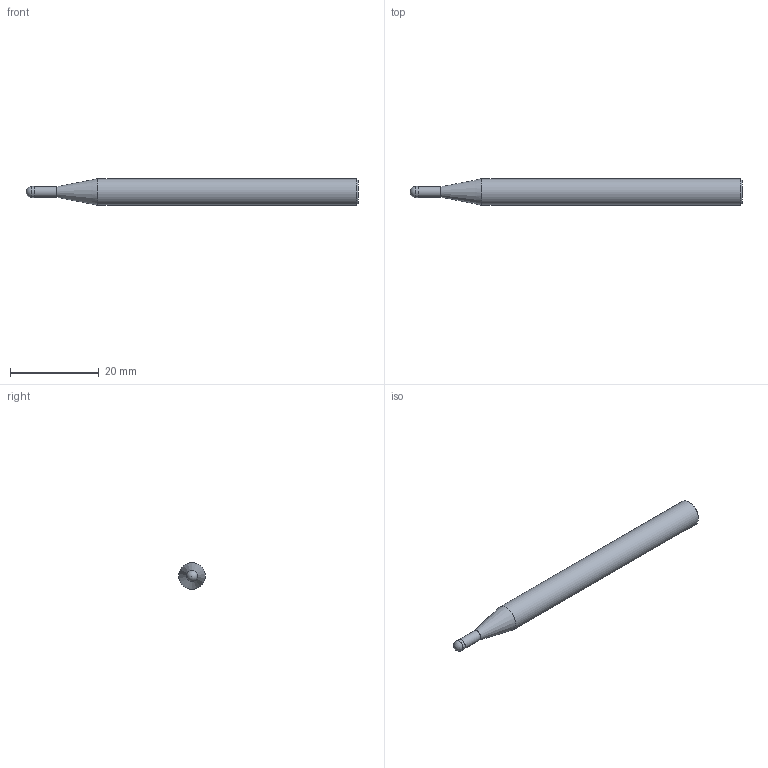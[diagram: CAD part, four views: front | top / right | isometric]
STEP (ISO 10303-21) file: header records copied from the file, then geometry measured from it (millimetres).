
FILE_DESCRIPTION(/* description */ (''),/* implementation_level */ '2;1');
FILE_NAME(/* name */ 'HSXB2025 0675.stp',/* time_stamp */ '2026-08-01T16:34:23+08:00',/* author */ (''),/* organization */ (''),/* preprocessor_version */ 'ST-DEVELOPER v16',/* originating_system */ 'SIEMENS PLM Software NX 10.0',/* authorisation */ '');
FILE_SCHEMA (('CONFIG_CONTROL_DESIGN'));
Length unit declared in the file: millimetre
Products named in the file (1): HSXB2025 0675_dxf
Bounding box: 75 x 6 x 6 mm (x, y, z)
Volume: 1826.6 mm3; surface area: 1319.4 mm2
Topology: 2 solids, 2 shells, 9 faces, 15 edges, 9 vertices
Faces by surface type: plane 3, cylinder 3, cone 2, sphere 1
Full cylindrical faces by diameter (mm): 2.4 x1, 2.5 x1, 6 x1
Entity records: 246 total; most frequent: DIRECTION 34, CARTESIAN_POINT 24, AXIS2_PLACEMENT_3D 17, EDGE_LOOP 14, ORIENTED_EDGE 14, FACE_BOUND 10, ADVANCED_FACE 9, PERSON_AND_ORGANIZATION 7
